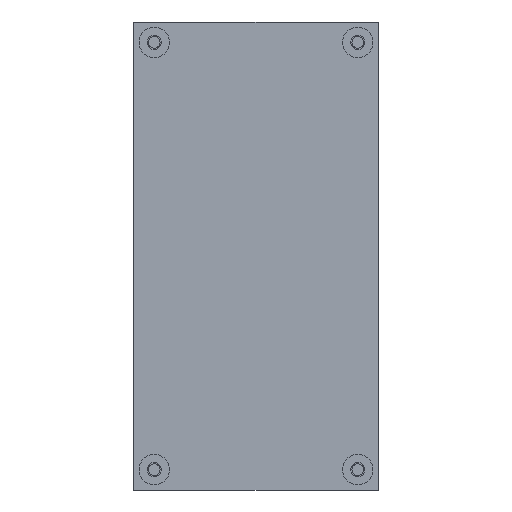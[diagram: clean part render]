
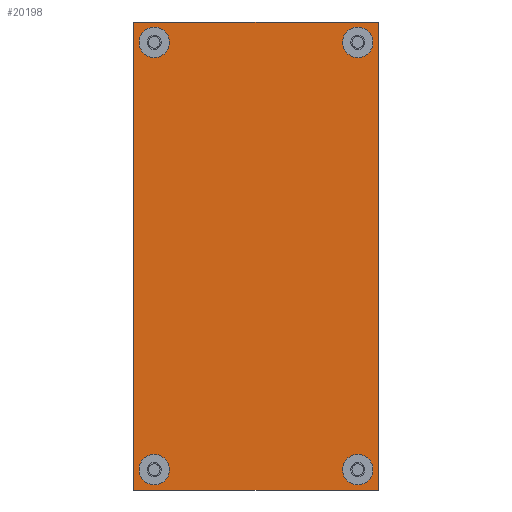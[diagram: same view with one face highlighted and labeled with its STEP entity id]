
A CAD part, front view. The second image highlights one B-rep face of the part: STEP entity #20198.
In plain terms, the highlighted planar face has unit normal (0, -1, 0).
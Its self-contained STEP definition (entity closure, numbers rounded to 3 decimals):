
#187 = ORIENTED_EDGE ( 'NONE', *, *, #25295, .F. ) ;
#592 = FACE_BOUND ( 'NONE', #6068, .T. ) ;
#730 = FACE_OUTER_BOUND ( 'NONE', #23559, .T. ) ;
#923 = CARTESIAN_POINT ( 'NONE',  ( 92.322, 64.833, 17.54 ) ) ;
#1136 = FACE_BOUND ( 'NONE', #11799, .T. ) ;
#1210 = DIRECTION ( 'NONE',  ( 0., 1., 0. ) ) ;
#1494 = CARTESIAN_POINT ( 'NONE',  ( 36.442, 64.833, 12.46 ) ) ;
#1667 = CARTESIAN_POINT ( 'NONE',  ( 92.322, 64.833, 17.54 ) ) ;
#1982 = CARTESIAN_POINT ( 'NONE',  ( 92.322, 64.833, 124.22 ) ) ;
#2046 = DIRECTION ( 'NONE',  ( 1., 0., 0. ) ) ;
#2181 = LINE ( 'NONE', #8410, #4684 ) ;
#2419 = DIRECTION ( 'NONE',  ( 1., 0., 0. ) ) ;
#2871 = CIRCLE ( 'NONE', #24746, 3.81 ) ;
#2880 = ORIENTED_EDGE ( 'NONE', *, *, #16899, .T. ) ;
#2987 = CARTESIAN_POINT ( 'NONE',  ( 97.402, 64.833, 12.46 ) ) ;
#3462 = DIRECTION ( 'NONE',  ( 0., 1., 0. ) ) ;
#3949 = DIRECTION ( 'NONE',  ( 0., 1., 0. ) ) ;
#4106 = ORIENTED_EDGE ( 'NONE', *, *, #5580, .F. ) ;
#4256 = VERTEX_POINT ( 'NONE', #18562 ) ;
#4397 = VERTEX_POINT ( 'NONE', #18037 ) ;
#4597 = CARTESIAN_POINT ( 'NONE',  ( 96.132, 64.833, 124.22 ) ) ;
#4619 = CARTESIAN_POINT ( 'NONE',  ( 96.132, 64.833, 17.54 ) ) ;
#4684 = VECTOR ( 'NONE', #2046, 1000. ) ;
#4763 = AXIS2_PLACEMENT_3D ( 'NONE', #1667, #3949, #12038 ) ;
#5232 = DIRECTION ( 'NONE',  ( 1., 0., 0. ) ) ;
#5580 = EDGE_CURVE ( 'NONE', #4256, #11109, #19290, .T. ) ;
#6068 = EDGE_LOOP ( 'NONE', ( #19602, #24708 ) ) ;
#6204 = EDGE_CURVE ( 'NONE', #20759, #21493, #24102, .T. ) ;
#8219 = CARTESIAN_POINT ( 'NONE',  ( 41.522, 64.833, 17.54 ) ) ;
#8410 = CARTESIAN_POINT ( 'NONE',  ( 36.442, 64.833, 129.3 ) ) ;
#8499 = VERTEX_POINT ( 'NONE', #4619 ) ;
#8964 = PLANE ( 'NONE',  #26271 ) ;
#9009 = ORIENTED_EDGE ( 'NONE', *, *, #15190, .F. ) ;
#9276 = EDGE_CURVE ( 'NONE', #8499, #4397, #10759, .T. ) ;
#9321 = VERTEX_POINT ( 'NONE', #18330 ) ;
#9424 = CARTESIAN_POINT ( 'NONE',  ( 41.522, 64.833, 17.54 ) ) ;
#9940 = DIRECTION ( 'NONE',  ( 1., 0., 0. ) ) ;
#10009 = CARTESIAN_POINT ( 'NONE',  ( 92.322, 64.833, 124.22 ) ) ;
#10759 = CIRCLE ( 'NONE', #4763, 3.81 ) ;
#10903 = ORIENTED_EDGE ( 'NONE', *, *, #14477, .T. ) ;
#11109 = VERTEX_POINT ( 'NONE', #22137 ) ;
#11657 = EDGE_CURVE ( 'NONE', #11960, #19757, #2181, .T. ) ;
#11799 = EDGE_LOOP ( 'NONE', ( #25978, #20848 ) ) ;
#11842 = CARTESIAN_POINT ( 'NONE',  ( 97.402, 64.833, 129.3 ) ) ;
#11960 = VERTEX_POINT ( 'NONE', #13150 ) ;
#11973 = EDGE_CURVE ( 'NONE', #4397, #8499, #17142, .T. ) ;
#12038 = DIRECTION ( 'NONE',  ( 1., 0., 0. ) ) ;
#12052 = ORIENTED_EDGE ( 'NONE', *, *, #11657, .F. ) ;
#12250 = DIRECTION ( 'NONE',  ( 0., 1., 0. ) ) ;
#12836 = ORIENTED_EDGE ( 'NONE', *, *, #6204, .T. ) ;
#12904 = VERTEX_POINT ( 'NONE', #19100 ) ;
#13123 = VERTEX_POINT ( 'NONE', #4597 ) ;
#13150 = CARTESIAN_POINT ( 'NONE',  ( 36.442, 64.833, 129.3 ) ) ;
#13418 = ORIENTED_EDGE ( 'NONE', *, *, #17676, .T. ) ;
#13599 = DIRECTION ( 'NONE',  ( 0., 0., -1. ) ) ;
#13944 = VECTOR ( 'NONE', #15390, 1000. ) ;
#14129 = CARTESIAN_POINT ( 'NONE',  ( 41.522, 64.833, 124.22 ) ) ;
#14477 = EDGE_CURVE ( 'NONE', #13123, #12904, #19123, .T. ) ;
#15190 = EDGE_CURVE ( 'NONE', #11109, #11960, #26039, .T. ) ;
#15253 = CARTESIAN_POINT ( 'NONE',  ( 36.442, 64.833, 12.46 ) ) ;
#15322 = VECTOR ( 'NONE', #17750, 1000. ) ;
#15390 = DIRECTION ( 'NONE',  ( -1., 0., 0. ) ) ;
#15497 = DIRECTION ( 'NONE',  ( 0., 1., 0. ) ) ;
#16467 = DIRECTION ( 'NONE',  ( 0., 1., 0. ) ) ;
#16899 = EDGE_CURVE ( 'NONE', #21493, #20759, #21576, .T. ) ;
#16911 = EDGE_CURVE ( 'NONE', #9321, #21100, #20263, .T. ) ;
#17142 = CIRCLE ( 'NONE', #20568, 3.81 ) ;
#17247 = AXIS2_PLACEMENT_3D ( 'NONE', #20502, #16467, #26522 ) ;
#17260 = EDGE_LOOP ( 'NONE', ( #2880, #12836 ) ) ;
#17588 = DIRECTION ( 'NONE',  ( 1., 0., 0. ) ) ;
#17676 = EDGE_CURVE ( 'NONE', #12904, #13123, #26312, .T. ) ;
#17750 = DIRECTION ( 'NONE',  ( 0., 0., 1. ) ) ;
#17927 = DIRECTION ( 'NONE',  ( 0., 1., 0. ) ) ;
#18037 = CARTESIAN_POINT ( 'NONE',  ( 88.512, 64.833, 17.54 ) ) ;
#18330 = CARTESIAN_POINT ( 'NONE',  ( 37.712, 64.833, 17.54 ) ) ;
#18410 = DIRECTION ( 'NONE',  ( 0., 1., 0. ) ) ;
#18562 = CARTESIAN_POINT ( 'NONE',  ( 97.402, 64.833, 12.46 ) ) ;
#18612 = CARTESIAN_POINT ( 'NONE',  ( 45.332, 64.833, 17.54 ) ) ;
#18822 = DIRECTION ( 'NONE',  ( 1., 0., 0. ) ) ;
#19100 = CARTESIAN_POINT ( 'NONE',  ( 88.512, 64.833, 124.22 ) ) ;
#19123 = CIRCLE ( 'NONE', #22542, 3.81 ) ;
#19225 = VECTOR ( 'NONE', #13599, 1000. ) ;
#19290 = LINE ( 'NONE', #15253, #13944 ) ;
#19518 = LINE ( 'NONE', #2987, #19225 ) ;
#19602 = ORIENTED_EDGE ( 'NONE', *, *, #16911, .T. ) ;
#19757 = VERTEX_POINT ( 'NONE', #11842 ) ;
#20198 = ADVANCED_FACE ( 'NONE', ( #592, #21422, #21147, #1136, #730 ), #8964, .F. ) ;
#20263 = CIRCLE ( 'NONE', #21989, 3.81 ) ;
#20502 = CARTESIAN_POINT ( 'NONE',  ( 41.522, 64.833, 124.22 ) ) ;
#20568 = AXIS2_PLACEMENT_3D ( 'NONE', #923, #25353, #5232 ) ;
#20759 = VERTEX_POINT ( 'NONE', #24936 ) ;
#20848 = ORIENTED_EDGE ( 'NONE', *, *, #9276, .T. ) ;
#21100 = VERTEX_POINT ( 'NONE', #18612 ) ;
#21147 = FACE_BOUND ( 'NONE', #17260, .T. ) ;
#21422 = FACE_BOUND ( 'NONE', #23902, .T. ) ;
#21493 = VERTEX_POINT ( 'NONE', #22612 ) ;
#21576 = CIRCLE ( 'NONE', #23702, 3.81 ) ;
#21989 = AXIS2_PLACEMENT_3D ( 'NONE', #8219, #12250, #22577 ) ;
#22047 = AXIS2_PLACEMENT_3D ( 'NONE', #10009, #17927, #18822 ) ;
#22137 = CARTESIAN_POINT ( 'NONE',  ( 36.442, 64.833, 12.46 ) ) ;
#22542 = AXIS2_PLACEMENT_3D ( 'NONE', #1982, #3462, #9940 ) ;
#22577 = DIRECTION ( 'NONE',  ( 1., 0., 0. ) ) ;
#22612 = CARTESIAN_POINT ( 'NONE',  ( 37.712, 64.833, 124.22 ) ) ;
#23559 = EDGE_LOOP ( 'NONE', ( #9009, #4106, #187, #12052 ) ) ;
#23702 = AXIS2_PLACEMENT_3D ( 'NONE', #14129, #18410, #2419 ) ;
#23902 = EDGE_LOOP ( 'NONE', ( #13418, #10903 ) ) ;
#24102 = CIRCLE ( 'NONE', #17247, 3.81 ) ;
#24708 = ORIENTED_EDGE ( 'NONE', *, *, #25610, .T. ) ;
#24746 = AXIS2_PLACEMENT_3D ( 'NONE', #9424, #1210, #17588 ) ;
#24936 = CARTESIAN_POINT ( 'NONE',  ( 45.332, 64.833, 124.22 ) ) ;
#25295 = EDGE_CURVE ( 'NONE', #19757, #4256, #19518, .T. ) ;
#25301 = DIRECTION ( 'NONE',  ( 1., 0., 0. ) ) ;
#25353 = DIRECTION ( 'NONE',  ( 0., 1., 0. ) ) ;
#25427 = CARTESIAN_POINT ( 'NONE',  ( 36.442, 64.833, 129.3 ) ) ;
#25610 = EDGE_CURVE ( 'NONE', #21100, #9321, #2871, .T. ) ;
#25978 = ORIENTED_EDGE ( 'NONE', *, *, #11973, .T. ) ;
#26039 = LINE ( 'NONE', #1494, #15322 ) ;
#26271 = AXIS2_PLACEMENT_3D ( 'NONE', #25427, #15497, #25301 ) ;
#26312 = CIRCLE ( 'NONE', #22047, 3.81 ) ;
#26522 = DIRECTION ( 'NONE',  ( 1., 0., 0. ) ) ;
